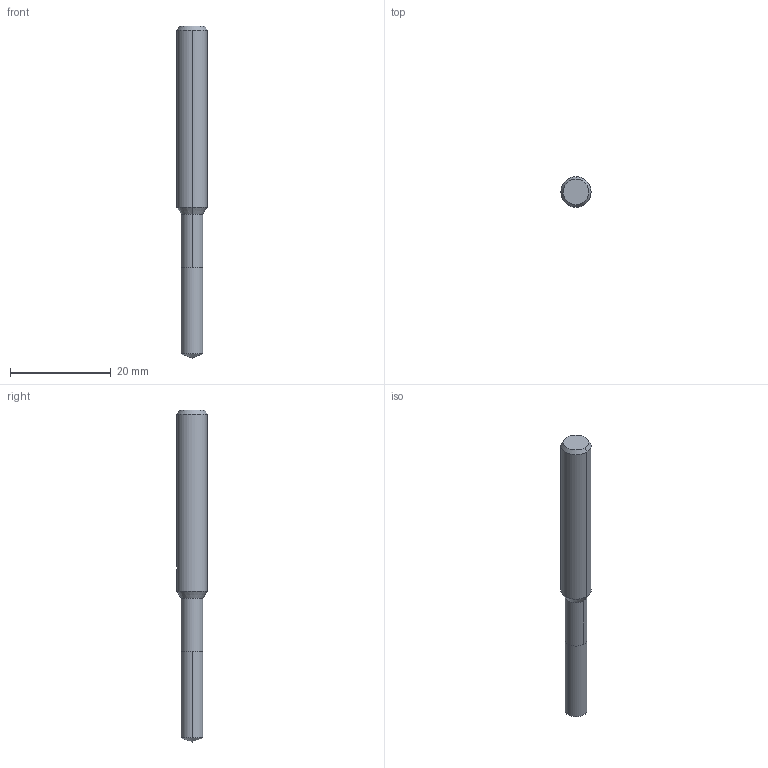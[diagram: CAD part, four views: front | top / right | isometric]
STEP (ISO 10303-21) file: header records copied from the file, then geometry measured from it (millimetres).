
FILE_DESCRIPTION(('no description'),'unknown implementation level');
FILE_NAME('solidAVtjW6cZfg34uC9f2SLv15r7s4E_1.STP',' ',('CIMSOURCE GmbH'),('CADClick - KiM GmbH - www.kimweb.de'),'unknown preprocess','ACIS','unknown authorization');
FILE_SCHEMA(('automotive_design'));
Length unit declared in the file: millimetre
Products named in the file (2): NOCUT; CUT
Bounding box: 6 x 6 x 66 mm (x, y, z)
Volume: 1465.2 mm3; surface area: 1154.9 mm2
Topology: 2 solids, 2 shells, 28 faces, 67 edges, 41 vertices
Faces by surface type: cylinder 14, plane 8, cone 6
Entity records: 1799 total; most frequent: CARTESIAN_POINT 356, DIRECTION 139, STYLED_ITEM 136, PRESENTATION_STYLE_ASSIGNMENT 136, COLOUR_RGB 136, ORIENTED_EDGE 130, EDGE_CURVE 65, CURVE_STYLE 65
